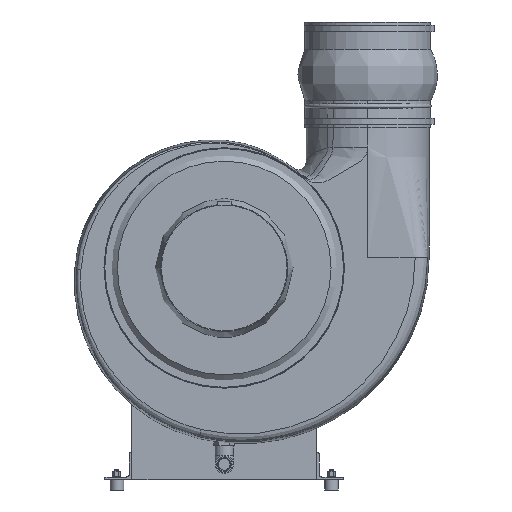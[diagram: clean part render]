
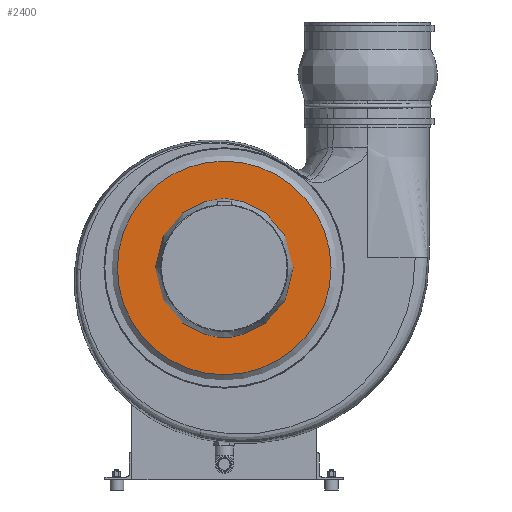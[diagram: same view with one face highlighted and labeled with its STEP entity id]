
A CAD part, front view. The second image highlights one B-rep face of the part: STEP entity #2400.
In plain terms, the highlighted planar face has unit normal (0, -1, 0) as drawn and (-1, 0, 0) by its records, which use the part's own axes.
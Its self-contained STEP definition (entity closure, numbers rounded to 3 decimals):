
#2400 = ADVANCED_FACE( '', ( #5554, #5555 ), #5556, .T. );
#5554 = FACE_BOUND( '', #14196, .T. );
#5555 = FACE_OUTER_BOUND( '', #14197, .T. );
#5556 = PLANE( '', #14198 );
#14196 = EDGE_LOOP( '', ( #36142 ) );
#14197 = EDGE_LOOP( '', ( #36143 ) );
#14198 = AXIS2_PLACEMENT_3D( '', #36144, #36145, #36146 );
#36142 = ORIENTED_EDGE( '', *, *, #45858, .F. );
#36143 = ORIENTED_EDGE( '', *, *, #45859, .T. );
#36144 = CARTESIAN_POINT( '', ( 40., 0., 0. ) );
#36145 = DIRECTION( '', ( -1., 0., 0. ) );
#36146 = DIRECTION( '', ( 0., 0., 1. ) );
#45858 = EDGE_CURVE( '', #50542, #50542, #50543, .T. );
#45859 = EDGE_CURVE( '', #50544, #50544, #50545, .T. );
#50542 = VERTEX_POINT( '', #59719 );
#50543 = CIRCLE( '', #59720, 90. );
#50544 = VERTEX_POINT( '', #59721 );
#50545 = CIRCLE( '', #59722, 156.338 );
#59719 = CARTESIAN_POINT( '', ( 40., 0., 90. ) );
#59720 = AXIS2_PLACEMENT_3D( '', #73746, #73747, #73748 );
#59721 = CARTESIAN_POINT( '', ( 40., 0., 156.338 ) );
#59722 = AXIS2_PLACEMENT_3D( '', #73749, #73750, #73751 );
#73746 = CARTESIAN_POINT( '', ( 40., 0., 0. ) );
#73747 = DIRECTION( '', ( -1., 0., 0. ) );
#73748 = DIRECTION( '', ( 0., 0., 1. ) );
#73749 = CARTESIAN_POINT( '', ( 40., 0., 0. ) );
#73750 = DIRECTION( '', ( -1., 0., 0. ) );
#73751 = DIRECTION( '', ( 0., 0., 1. ) );
